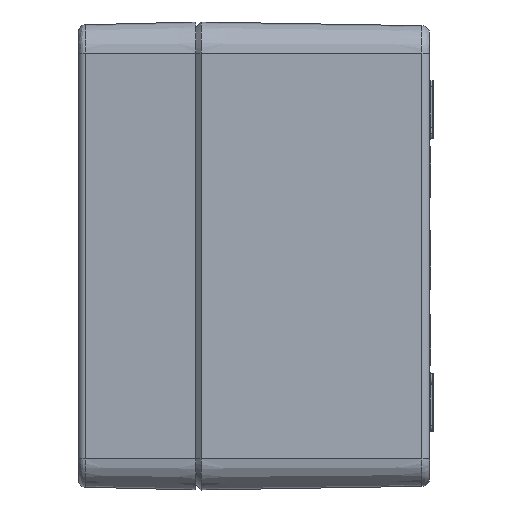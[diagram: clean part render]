
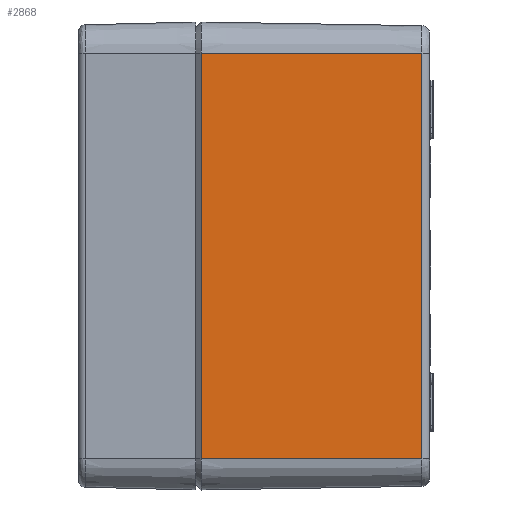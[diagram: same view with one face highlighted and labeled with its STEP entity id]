
A CAD part, left-side view. The second image highlights one B-rep face of the part: STEP entity #2868.
In plain terms, the highlighted planar face has unit normal (-1, -0.017, 0).
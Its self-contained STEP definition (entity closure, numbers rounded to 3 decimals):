
#2868 = ADVANCED_FACE ( 'NONE', ( #9795 ), #8193, .T. ) ;
#5550 = VECTOR ( 'NONE', #44962, 1000. ) ;
#7628 = CARTESIAN_POINT ( 'NONE',  ( -110.025, 0., 52.025 ) ) ;
#8193 = PLANE ( 'NONE',  #40107 ) ;
#8796 = DIRECTION ( 'NONE',  ( 0.017, -1., 0. ) ) ;
#9004 = CARTESIAN_POINT ( 'NONE',  ( -109.058, -58.033, -52.025 ) ) ;
#9795 = FACE_OUTER_BOUND ( 'NONE', #31651, .T. ) ;
#13431 = EDGE_CURVE ( 'NONE', #24183, #24487, #39635, .T. ) ;
#13794 = EDGE_CURVE ( 'NONE', #24487, #22340, #43822, .T. ) ;
#14224 = EDGE_CURVE ( 'NONE', #28024, #24183, #46659, .T. ) ;
#14291 = CARTESIAN_POINT ( 'NONE',  ( -110.002, -1.4, 52.025 ) ) ;
#16590 = CARTESIAN_POINT ( 'NONE',  ( -110.025, 0., 52.025 ) ) ;
#21092 = DIRECTION ( 'NONE',  ( -0.017, 1., 0. ) ) ;
#21987 = ORIENTED_EDGE ( 'NONE', *, *, #24798, .F. ) ;
#22274 = ORIENTED_EDGE ( 'NONE', *, *, #13431, .T. ) ;
#22340 = VERTEX_POINT ( 'NONE', #9004 ) ;
#22719 = VECTOR ( 'NONE', #21092, 1000. ) ;
#23456 = VECTOR ( 'NONE', #44385, 1000. ) ;
#24183 = VERTEX_POINT ( 'NONE', #14291 ) ;
#24487 = VERTEX_POINT ( 'NONE', #53335 ) ;
#24798 = EDGE_CURVE ( 'NONE', #28024, #22340, #29407, .T. ) ;
#25283 = DIRECTION ( 'NONE',  ( 0.017, -1., 0. ) ) ;
#26259 = ORIENTED_EDGE ( 'NONE', *, *, #13794, .T. ) ;
#27029 = CARTESIAN_POINT ( 'NONE',  ( -110.025, 0., -52.025 ) ) ;
#28024 = VERTEX_POINT ( 'NONE', #54327 ) ;
#29407 = LINE ( 'NONE', #49717, #5550 ) ;
#30162 = DIRECTION ( 'NONE',  ( -1., -0.017, 0. ) ) ;
#31651 = EDGE_LOOP ( 'NONE', ( #26259, #21987, #54938, #22274 ) ) ;
#31829 = VECTOR ( 'NONE', #8796, 1000. ) ;
#39635 = LINE ( 'NONE', #40051, #23456 ) ;
#40051 = CARTESIAN_POINT ( 'NONE',  ( -110.002, -1.4, 52.025 ) ) ;
#40107 = AXIS2_PLACEMENT_3D ( 'NONE', #7628, #30162, #25283 ) ;
#43822 = LINE ( 'NONE', #27029, #31829 ) ;
#44385 = DIRECTION ( 'NONE',  ( 0., 0., -1. ) ) ;
#44962 = DIRECTION ( 'NONE',  ( 0., 0., -1. ) ) ;
#46659 = LINE ( 'NONE', #16590, #22719 ) ;
#49717 = CARTESIAN_POINT ( 'NONE',  ( -109.058, -58.033, 52.025 ) ) ;
#53335 = CARTESIAN_POINT ( 'NONE',  ( -110.002, -1.4, -52.025 ) ) ;
#54327 = CARTESIAN_POINT ( 'NONE',  ( -109.058, -58.033, 52.025 ) ) ;
#54938 = ORIENTED_EDGE ( 'NONE', *, *, #14224, .T. ) ;
